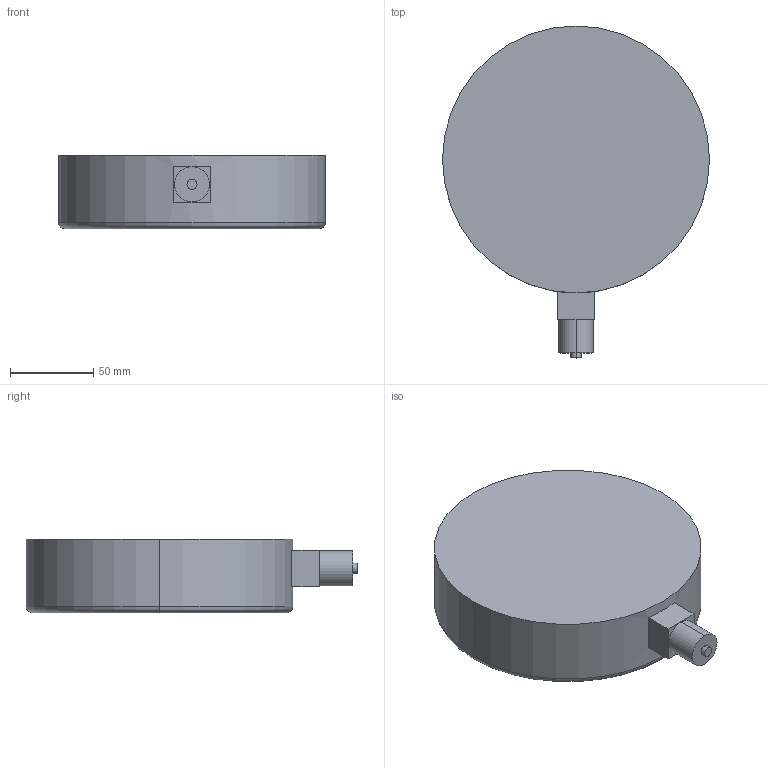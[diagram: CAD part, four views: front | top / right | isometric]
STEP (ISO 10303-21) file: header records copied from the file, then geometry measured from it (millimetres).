
FILE_DESCRIPTION (( 'STEP AP214' ), '1' );
FILE_NAME ('Manometr_puszkowy_x_0_3D_AFRISO.STEP', '2022-12-14T12:41:16', ( '' ), ( '' ), 'SwSTEP 2.0', 'SolidWorks 2022', '' );
FILE_SCHEMA (( 'AUTOMOTIVE_DESIGN' ));
Length unit declared in the file: millimetre
Products named in the file (1): Manometr_puszkowy_x_0_3D_AFRISO
Bounding box: 160 x 199 x 44 mm (x, y, z)
Volume: 898009.8 mm3; surface area: 64330 mm2
Topology: 1 solids, 1 shells, 17 faces, 34 edges, 22 vertices
Faces by surface type: plane 9, cylinder 6, torus 2
Entity records: 484 total; most frequent: DIRECTION 88, CARTESIAN_POINT 74, ORIENTED_EDGE 68, AXIS2_PLACEMENT_3D 36, EDGE_CURVE 34, VERTEX_POINT 22, EDGE_LOOP 20, CIRCLE 18
